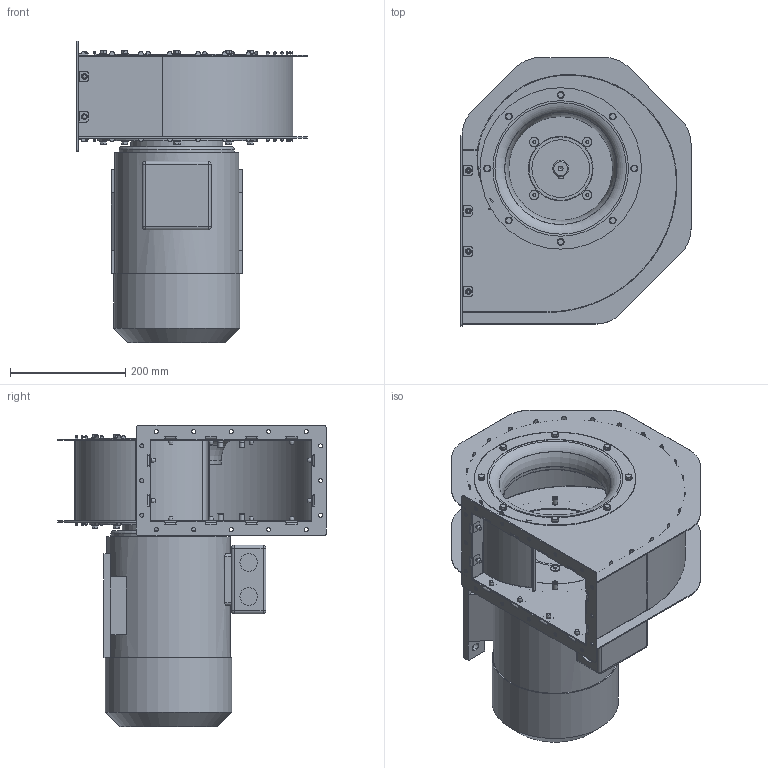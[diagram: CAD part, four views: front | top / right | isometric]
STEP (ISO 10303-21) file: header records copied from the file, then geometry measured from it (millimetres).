
FILE_DESCRIPTION(/* description */ (''),/* implementation_level */ '2;1');
FILE_NAME(/* name */ 'T:\Drawings\Standard Drawings\DATA Web Downloads\3D FILES\HFM-225-92 _ 3D12-0200.stp',/* time_stamp */ '2015-02-18T13:35:04+00:00',/* author */ ('mtinkler'),/* organization */ (''),/* preprocessor_version */ 'ST-DEVELOPER v15.6',/* originating_system */ 'Autodesk Inventor 2015',/* authorisation */ '');
FILE_SCHEMA (('AUTOMOTIVE_DESIGN { 1 0 10303 214 3 1 1 }'));
Length unit declared in the file: centimetre
Products named in the file (1): 3D12-0200
Bounding box: 399 x 466 x 523 mm (x, y, z)
Volume: 14720549.5 mm3; surface area: 1514959.6 mm2
Topology: 72 solids, 72 shells, 1589 faces, 3932 edges, 2545 vertices
Faces by surface type: plane 882, cylinder 491, cone 147, torus 37, sphere 20, bspline 12
Full cylindrical faces by diameter (mm): 4.8 x12, 5 x24, 6 x32, 6.5 x16, 6.647 x4, 7 x16, 8 x4, 8.376 x1, 8.5 x4, 9 x16, 9.1 x16, 15.6 x4, 28 x1, 30.376 x2, 100 x1, 110 x1, 112 x1, 160 x1, 180 x1, 182.4 x1, 200 x1, 215 x1, 219 x1, 228 x2, 275 x1, 280 x1
Entity records: 48473 total; most frequent: CARTESIAN_POINT 9892, DIRECTION 7666, ORIENTED_EDGE 7206, EDGE_CURVE 3603, AXIS2_PLACEMENT_3D 2855, VERTEX_POINT 2469, EDGE_LOOP 2198, LINE 1956
